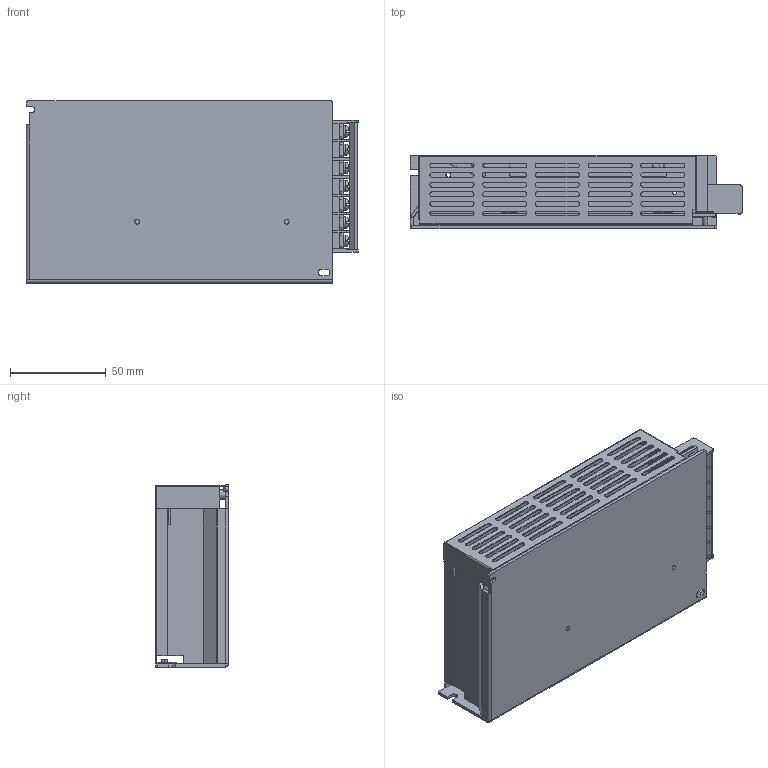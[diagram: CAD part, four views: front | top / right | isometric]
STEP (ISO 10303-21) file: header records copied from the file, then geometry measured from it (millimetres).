
FILE_DESCRIPTION (( 'STEP AP214' ), '1' );
FILE_NAME ('TXL-070.STEP', '2019-07-09T09:06:06', ( 'users' ), ( '' ), 'SwSTEP 2.0', 'SolidWorks 2012', '' );
FILE_SCHEMA (( 'AUTOMOTIVE_DESIGN' ));
Length unit declared in the file: millimetre
Products named in the file (5): COVER; TML; PCB; CASE; TXL-070
Assembly tree (4 placements, depth 2):
  TXL-070
    CASE
    PCB
    TML
    COVER
Bounding box: 173.17 x 38 x 95 mm (x, y, z)
Volume: 80845.6 mm3; surface area: 124321.9 mm2
Topology: 4 solids, 4 shells, 1315 faces, 3734 edges, 2431 vertices
Faces by surface type: plane 794, cylinder 493, torus 14, cone 14
Entity records: 47912 total; most frequent: CARTESIAN_POINT 7963, ORIENTED_EDGE 7468, DIRECTION 7330, EDGE_CURVE 3734, VECTOR 2558, LINE 2558, VERTEX_POINT 2431, AXIS2_PLACEMENT_3D 2386
